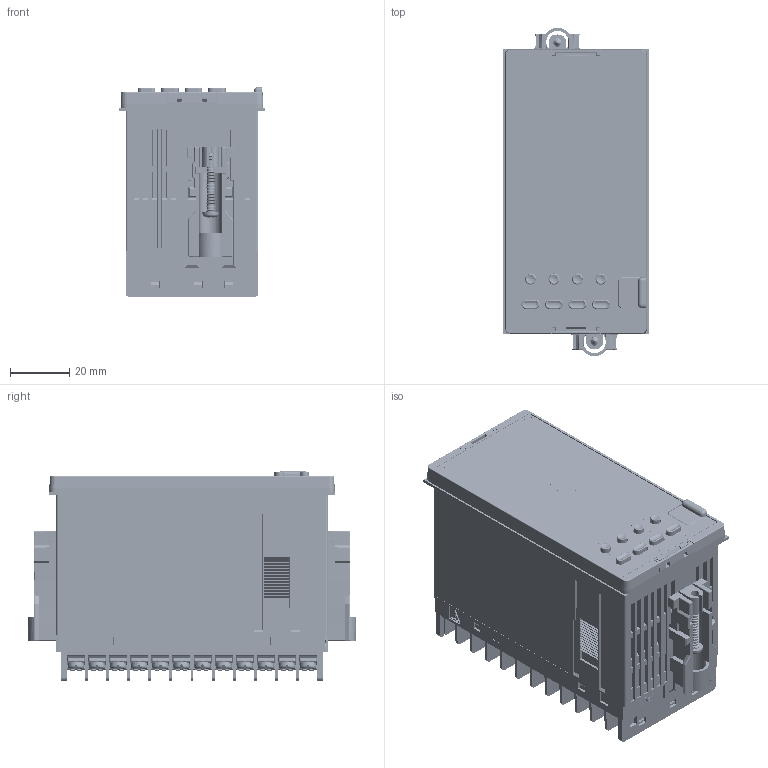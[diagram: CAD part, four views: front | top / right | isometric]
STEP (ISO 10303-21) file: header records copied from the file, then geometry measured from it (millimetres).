
FILE_DESCRIPTION (( 'STEP AP203' ), '1' );
FILE_NAME ('FZ400_WEB.STEP', '2019-06-03T03:20:08', ( '' ), ( '' ), 'SwSTEP 2.0', 'SolidWorks 2018', '' );
FILE_SCHEMA (( 'CONFIG_CONTROL_DESIGN' ));
Products named in the file (4): FZ400(基本設計)_WEB_デフォルト; KFB400-36(1)_WEB; KRZ400-520_WEB; FZ400_WEB
Assembly tree (4 placements, depth 2):
  FZ400_WEB
    FZ400(基本設計)_WEB_デフォルト
    KFB400-36(1)_WEB
    KRZ400-520_WEB  x2
Bounding box: 49.2 x 110.45 x 70.6 mm (x, y, z)
Volume: 262455.6 mm3; surface area: 53590.2 mm2
Topology: 6 solids, 20 shells, 15419 faces, 43115 edges, 28124 vertices
Faces by surface type: plane 9918, cylinder 3455, bspline 1528, sphere 196, cone 180, torus 142
Entity records: 513887 total; most frequent: CARTESIAN_POINT 136931, ORIENTED_EDGE 82868, DIRECTION 72043, EDGE_CURVE 41434, LINE 31127, VECTOR 31127, VERTEX_POINT 27175, AXIS2_PLACEMENT_3D 20458
